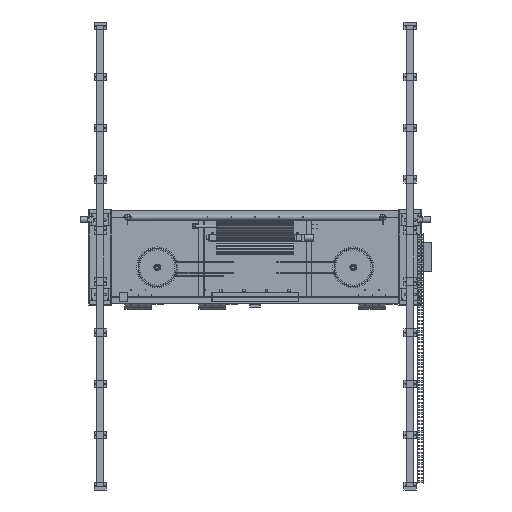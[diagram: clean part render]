
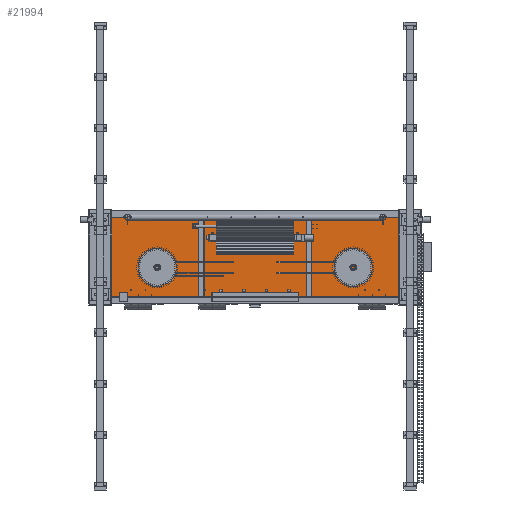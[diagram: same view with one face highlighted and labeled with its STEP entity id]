
A CAD part, front view. The second image highlights one B-rep face of the part: STEP entity #21994.
In plain terms, the highlighted planar face has unit normal (0, -1, 0).
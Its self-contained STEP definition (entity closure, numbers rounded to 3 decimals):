
#21778 = EDGE_CURVE('',#21779,#21781,#21783,.T.);
#21779 = VERTEX_POINT('',#21780);
#21780 = CARTESIAN_POINT('',(-3397.35,3636.6,-1052.7));
#21781 = VERTEX_POINT('',#21782);
#21782 = CARTESIAN_POINT('',(-3397.35,3636.6,909.1));
#21783 = SURFACE_CURVE('',#21784,(#21788,#21800),.PCURVE_S1.);
#21784 = LINE('',#21785,#21786);
#21785 = CARTESIAN_POINT('',(-3397.35,3636.6,-1052.7));
#21786 = VECTOR('',#21787,1.);
#21787 = DIRECTION('',(0.,0.,1.));
#21788 = PCURVE('',#21789,#21794);
#21789 = PLANE('',#21790);
#21790 = AXIS2_PLACEMENT_3D('',#21791,#21792,#21793);
#21791 = CARTESIAN_POINT('',(-3397.35,3636.6,-1052.7));
#21792 = DIRECTION('',(1.,0.,0.));
#21793 = DIRECTION('',(0.,0.,1.));
#21794 = DEFINITIONAL_REPRESENTATION('',(#21795),#21799);
#21795 = LINE('',#21796,#21797);
#21796 = CARTESIAN_POINT('',(0.,0.));
#21797 = VECTOR('',#21798,1.);
#21798 = DIRECTION('',(1.,0.));
#21799 = ( GEOMETRIC_REPRESENTATION_CONTEXT(2) 
PARAMETRIC_REPRESENTATION_CONTEXT() REPRESENTATION_CONTEXT('2D SPACE',''
  ) );
#21800 = PCURVE('',#21801,#21806);
#21801 = PLANE('',#21802);
#21802 = AXIS2_PLACEMENT_3D('',#21803,#21804,#21805);
#21803 = CARTESIAN_POINT('',(-3397.35,3636.6,-1052.7));
#21804 = DIRECTION('',(0.,1.,0.));
#21805 = DIRECTION('',(0.,0.,1.));
#21806 = DEFINITIONAL_REPRESENTATION('',(#21807),#21811);
#21807 = LINE('',#21808,#21809);
#21808 = CARTESIAN_POINT('',(0.,0.));
#21809 = VECTOR('',#21810,1.);
#21810 = DIRECTION('',(1.,0.));
#21811 = ( GEOMETRIC_REPRESENTATION_CONTEXT(2) 
PARAMETRIC_REPRESENTATION_CONTEXT() REPRESENTATION_CONTEXT('2D SPACE',''
  ) );
#21829 = PLANE('',#21830);
#21830 = AXIS2_PLACEMENT_3D('',#21831,#21832,#21833);
#21831 = CARTESIAN_POINT('',(-3397.35,3636.6,-1052.7));
#21832 = DIRECTION('',(0.,0.,1.));
#21833 = DIRECTION('',(1.,0.,0.));
#21883 = PLANE('',#21884);
#21884 = AXIS2_PLACEMENT_3D('',#21885,#21886,#21887);
#21885 = CARTESIAN_POINT('',(-3397.35,3636.6,909.1));
#21886 = DIRECTION('',(0.,0.,1.));
#21887 = DIRECTION('',(1.,0.,0.));
#21898 = EDGE_CURVE('',#21899,#21901,#21903,.T.);
#21899 = VERTEX_POINT('',#21900);
#21900 = CARTESIAN_POINT('',(3397.35,3636.6,-1052.7));
#21901 = VERTEX_POINT('',#21902);
#21902 = CARTESIAN_POINT('',(3397.35,3636.6,909.1));
#21903 = SURFACE_CURVE('',#21904,(#21908,#21920),.PCURVE_S1.);
#21904 = LINE('',#21905,#21906);
#21905 = CARTESIAN_POINT('',(3397.35,3636.6,-1052.7));
#21906 = VECTOR('',#21907,1.);
#21907 = DIRECTION('',(0.,0.,1.));
#21908 = PCURVE('',#21909,#21914);
#21909 = PLANE('',#21910);
#21910 = AXIS2_PLACEMENT_3D('',#21911,#21912,#21913);
#21911 = CARTESIAN_POINT('',(3397.35,3636.6,-1052.7));
#21912 = DIRECTION('',(1.,0.,0.));
#21913 = DIRECTION('',(0.,0.,1.));
#21914 = DEFINITIONAL_REPRESENTATION('',(#21915),#21919);
#21915 = LINE('',#21916,#21917);
#21916 = CARTESIAN_POINT('',(0.,0.));
#21917 = VECTOR('',#21918,1.);
#21918 = DIRECTION('',(1.,0.));
#21919 = ( GEOMETRIC_REPRESENTATION_CONTEXT(2) 
PARAMETRIC_REPRESENTATION_CONTEXT() REPRESENTATION_CONTEXT('2D SPACE',''
  ) );
#21920 = PCURVE('',#21801,#21921);
#21921 = DEFINITIONAL_REPRESENTATION('',(#21922),#21926);
#21922 = LINE('',#21923,#21924);
#21923 = CARTESIAN_POINT('',(0.,6794.7));
#21924 = VECTOR('',#21925,1.);
#21925 = DIRECTION('',(1.,0.));
#21926 = ( GEOMETRIC_REPRESENTATION_CONTEXT(2) 
PARAMETRIC_REPRESENTATION_CONTEXT() REPRESENTATION_CONTEXT('2D SPACE',''
  ) );
#21994 = ADVANCED_FACE('',(#21995),#21801,.F.);
#21995 = FACE_BOUND('',#21996,.F.);
#21996 = EDGE_LOOP('',(#21997,#22018,#22019,#22040));
#21997 = ORIENTED_EDGE('',*,*,#21998,.F.);
#21998 = EDGE_CURVE('',#21779,#21899,#21999,.T.);
#21999 = SURFACE_CURVE('',#22000,(#22004,#22011),.PCURVE_S1.);
#22000 = LINE('',#22001,#22002);
#22001 = CARTESIAN_POINT('',(-3397.35,3636.6,-1052.7));
#22002 = VECTOR('',#22003,1.);
#22003 = DIRECTION('',(1.,0.,0.));
#22004 = PCURVE('',#21801,#22005);
#22005 = DEFINITIONAL_REPRESENTATION('',(#22006),#22010);
#22006 = LINE('',#22007,#22008);
#22007 = CARTESIAN_POINT('',(0.,0.));
#22008 = VECTOR('',#22009,1.);
#22009 = DIRECTION('',(0.,1.));
#22010 = ( GEOMETRIC_REPRESENTATION_CONTEXT(2) 
PARAMETRIC_REPRESENTATION_CONTEXT() REPRESENTATION_CONTEXT('2D SPACE',''
  ) );
#22011 = PCURVE('',#21829,#22012);
#22012 = DEFINITIONAL_REPRESENTATION('',(#22013),#22017);
#22013 = LINE('',#22014,#22015);
#22014 = CARTESIAN_POINT('',(0.,0.));
#22015 = VECTOR('',#22016,1.);
#22016 = DIRECTION('',(1.,0.));
#22017 = ( GEOMETRIC_REPRESENTATION_CONTEXT(2) 
PARAMETRIC_REPRESENTATION_CONTEXT() REPRESENTATION_CONTEXT('2D SPACE',''
  ) );
#22018 = ORIENTED_EDGE('',*,*,#21778,.T.);
#22019 = ORIENTED_EDGE('',*,*,#22020,.T.);
#22020 = EDGE_CURVE('',#21781,#21901,#22021,.T.);
#22021 = SURFACE_CURVE('',#22022,(#22026,#22033),.PCURVE_S1.);
#22022 = LINE('',#22023,#22024);
#22023 = CARTESIAN_POINT('',(-3397.35,3636.6,909.1));
#22024 = VECTOR('',#22025,1.);
#22025 = DIRECTION('',(1.,0.,0.));
#22026 = PCURVE('',#21801,#22027);
#22027 = DEFINITIONAL_REPRESENTATION('',(#22028),#22032);
#22028 = LINE('',#22029,#22030);
#22029 = CARTESIAN_POINT('',(1961.8,0.));
#22030 = VECTOR('',#22031,1.);
#22031 = DIRECTION('',(0.,1.));
#22032 = ( GEOMETRIC_REPRESENTATION_CONTEXT(2) 
PARAMETRIC_REPRESENTATION_CONTEXT() REPRESENTATION_CONTEXT('2D SPACE',''
  ) );
#22033 = PCURVE('',#21883,#22034);
#22034 = DEFINITIONAL_REPRESENTATION('',(#22035),#22039);
#22035 = LINE('',#22036,#22037);
#22036 = CARTESIAN_POINT('',(0.,0.));
#22037 = VECTOR('',#22038,1.);
#22038 = DIRECTION('',(1.,0.));
#22039 = ( GEOMETRIC_REPRESENTATION_CONTEXT(2) 
PARAMETRIC_REPRESENTATION_CONTEXT() REPRESENTATION_CONTEXT('2D SPACE',''
  ) );
#22040 = ORIENTED_EDGE('',*,*,#21898,.F.);
